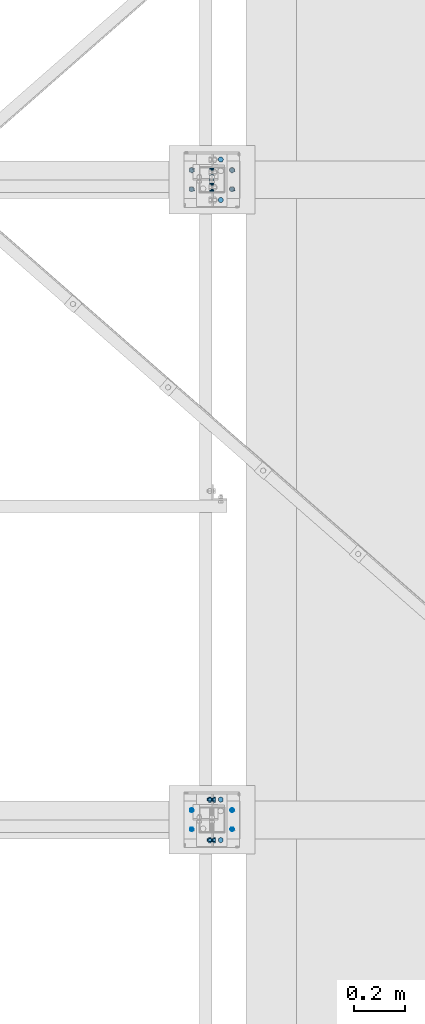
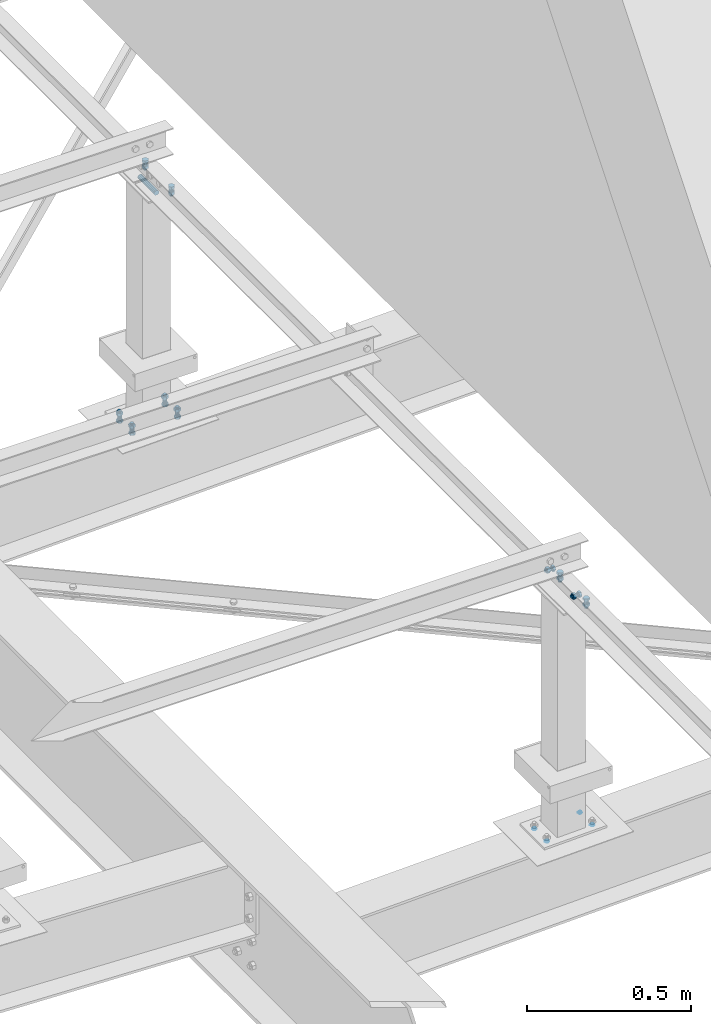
# One storey, part 82 of 3134: 6 mechanical fasteners, 6 elements without a shape of their own.
"""IFC2X3 building model written with IfcOpenShell, lengths in millimetres."""

from ifc_helpers import new_model, si_unit, frame, origin_with_axes, place, context, subcontext, project, spatial, faceted_brep, source, transform, mapped, material, type_object, element, aggregate, save


model = new_model("IFC2X3")

# Units and contexts
model_context = context("Model", 3, precision=1e-05, world=origin_with_axes())
body_context = subcontext(model_context, "Body", "Model", "MODEL_VIEW")
ifc_project = project(units=[si_unit("LENGTHUNIT", "METRE", prefix="MILLI"), si_unit("AREAUNIT", "SQUARE_METRE"), si_unit("VOLUMEUNIT", "CUBIC_METRE"), si_unit("MASSUNIT", "GRAM", prefix="KILO"), si_unit("TIMEUNIT", "SECOND"), si_unit("PLANEANGLEUNIT", "RADIAN"), si_unit("SOLIDANGLEUNIT", "STERADIAN"), si_unit("THERMODYNAMICTEMPERATUREUNIT", "DEGREE_CELSIUS"), si_unit("LUMINOUSINTENSITYUNIT", "LUMEN")], contexts=[model_context])

# Site, building, storey
site_placement = place(None, origin_with_axes())
site = spatial("IfcSite", under=ifc_project, at=site_placement, CompositionType="ELEMENT")
building_placement = place(site_placement, origin_with_axes())
building = spatial("IfcBuilding", under=site, at=building_placement, Name="Undefined", CompositionType="ELEMENT")
storey_placement = place(building_placement, origin_with_axes())
storey = spatial("IfcBuildingStorey", under=building, at=storey_placement, Name="Undefined", CompositionType="ELEMENT", Elevation=0.0)

# Assembly, mechanical fastener
assembly_1_placement = place(storey_placement, origin_with_axes())
assembly_1 = element("IfcElementAssembly", 1, at=assembly_1_placement, inside=storey, AssemblyPlace="NOTDEFINED", PredefinedType="RIGID_FRAME")
ifc_material = material(Name="8.8")
mechanical_fastener_type = type_object("IfcMechanicalFastenerType", Name="Bolt assembly")
shared_shape_1 = source(origin_with_axes(), body_context, "Body", "Brep", [
    faceted_brep([(10.9696551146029, -14.0, 0.0), (5.48482755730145, -14.0, 9.5), (-5.48482755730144, -14.0, 9.5), (-10.9696551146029, -14.0, 1.34339530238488e-15), (-5.48482755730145, -14.0, -9.5), (5.48482755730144, -14.0, -9.50000000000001), (5.48482755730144, -6.0, -9.50000000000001), (-5.48482755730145, -6.0, -9.5), (-10.9696551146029, -6.0, 1.34339530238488e-15), (-5.48482755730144, -6.0, 9.5), (5.48482755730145, -6.0, 9.5), (10.9696551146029, -6.0, 0.0), (6.0, -6.0, 0.0), (5.19615242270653, -6.0, 3.00000000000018), (2.99999999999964, -6.0, 5.19615242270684), (-6.21801588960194e-13, -6.0, 6.0), (-3.00000000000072, -6.0, 5.19615242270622), (-5.19615242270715, -6.0, 2.9999999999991), (-6.0, -6.0, -1.24360317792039e-12), (-5.19615242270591, -6.0, -3.00000000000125), (-2.99999999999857, -6.0, -5.19615242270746), (1.85874342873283e-12, -6.0, -6.0), (3.00000000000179, -6.0, -5.1961524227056), (5.19615242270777, -6.0, -2.99999999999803), (5.19615242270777, 24.0, -2.99999999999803), (3.00000000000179, 24.0, -5.1961524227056), (1.85874342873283e-12, 24.0, -6.0), (-2.99999999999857, 24.0, -5.19615242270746), (-5.19615242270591, 24.0, -3.00000000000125), (-6.0, 24.0, -1.24360317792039e-12), (-5.19615242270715, 24.0, 2.9999999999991), (-3.00000000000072, 24.0, 5.19615242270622), (-6.21801588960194e-13, 24.0, 6.0), (2.99999999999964, 24.0, 5.19615242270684), (5.19615242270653, 24.0, 3.00000000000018), (6.0, 24.0, 0.0), (10.9696551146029, 6.00000000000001, 0.0), (5.48482755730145, 6.00000000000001, 9.5), (-5.48482755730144, 6.00000000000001, 9.5), (-10.9696551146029, 6.00000000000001, 1.34339530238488e-15), (-5.48482755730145, 6.00000000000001, -9.5), (5.48482755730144, 6.00000000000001, -9.50000000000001), (5.48482755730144, 16.0, -9.50000000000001), (-5.48482755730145, 16.0, -9.5), (-10.9696551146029, 16.0, 1.34339530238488e-15), (-5.48482755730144, 16.0, 9.5), (5.48482755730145, 16.0, 9.5), (10.9696551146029, 16.0, 0.0)], [[[0, 1, 2, 3, 4, 5]], [[6, 7, 8, 9, 10, 11]], [[0, 11, 10, 1]], [[1, 10, 9, 2]], [[2, 9, 8, 3]], [[3, 8, 7, 4]], [[4, 7, 6, 5]], [[5, 6, 11, 0]], [[12, 13, 14, 15, 16, 17, 18, 19, 20, 21, 22, 23]], [[24, 25, 26, 27, 28, 29, 30, 31, 32, 33, 34, 35]], [[12, 35, 34, 13]], [[13, 34, 33, 14]], [[14, 33, 32, 15]], [[15, 32, 31, 16]], [[16, 31, 30, 17]], [[17, 30, 29, 18]], [[18, 29, 28, 19]], [[19, 28, 27, 20]], [[20, 27, 26, 21]], [[21, 26, 25, 22]], [[22, 25, 24, 23]], [[23, 24, 35, 12]], [[36, 37, 38, 39, 40, 41]], [[42, 43, 44, 45, 46, 47]], [[36, 47, 46, 37]], [[37, 46, 45, 38]], [[38, 45, 44, 39]], [[39, 44, 43, 40]], [[40, 43, 42, 41]], [[41, 42, 47, 36]]]),
    faceted_brep([(7.0, -5.9, 0.0), (6.06217782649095, -5.9, 3.50000000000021), (3.49999999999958, -5.9, 6.06217782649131), (-7.25435187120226e-13, -5.9, 7.0), (-3.50000000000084, -5.9, 6.06217782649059), (-6.06217782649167, -5.9, 3.49999999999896), (-7.0, -5.9, -1.45087037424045e-12), (-6.06217782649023, -5.9, -3.50000000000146), (-3.49999999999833, -5.9, -6.06217782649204), (2.1685340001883e-12, -5.9, -7.0), (3.50000000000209, -5.9, -6.06217782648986), (6.0621778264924, -5.9, -3.4999999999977), (6.0621778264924, 0.0999999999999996, -3.4999999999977), (3.50000000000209, 0.0999999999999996, -6.06217782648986), (2.1685340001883e-12, 0.0999999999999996, -7.0), (-3.49999999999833, 0.0999999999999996, -6.06217782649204), (-6.06217782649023, 0.0999999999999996, -3.50000000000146), (-7.0, 0.0999999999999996, -1.45087037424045e-12), (-6.06217782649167, 0.0999999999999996, 3.49999999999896), (-3.50000000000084, 0.0999999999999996, 6.06217782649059), (-7.25435187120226e-13, 0.0999999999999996, 7.0), (3.49999999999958, 0.0999999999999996, 6.06217782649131), (6.06217782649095, 0.0999999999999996, 3.50000000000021), (7.0, 0.0999999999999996, 0.0), (7.0, -0.1, 0.0), (6.06217782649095, -0.1, 3.50000000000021), (3.49999999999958, -0.1, 6.06217782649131), (-7.25435187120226e-13, -0.1, 7.0), (-3.50000000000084, -0.1, 6.06217782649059), (-6.06217782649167, -0.1, 3.49999999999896), (-7.0, -0.1, -1.45087037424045e-12), (-6.06217782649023, -0.1, -3.50000000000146), (-3.49999999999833, -0.1, -6.06217782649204), (2.1685340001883e-12, -0.1, -7.0), (3.50000000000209, -0.1, -6.06217782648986), (6.0621778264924, -0.1, -3.4999999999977), (6.0621778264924, 6.00000000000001, -3.4999999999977), (3.50000000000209, 6.00000000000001, -6.06217782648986), (2.1685340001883e-12, 6.00000000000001, -7.0), (-3.49999999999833, 6.00000000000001, -6.06217782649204), (-6.06217782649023, 6.00000000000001, -3.50000000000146), (-7.0, 6.00000000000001, -1.45087037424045e-12), (-6.06217782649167, 6.00000000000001, 3.49999999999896), (-3.50000000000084, 6.00000000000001, 6.06217782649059), (-7.25435187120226e-13, 6.00000000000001, 7.0), (3.49999999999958, 6.00000000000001, 6.06217782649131), (6.06217782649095, 6.00000000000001, 3.50000000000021), (7.0, 6.00000000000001, 0.0)], [[[0, 1, 2, 3, 4, 5, 6, 7, 8, 9, 10, 11]], [[12, 13, 14, 15, 16, 17, 18, 19, 20, 21, 22, 23]], [[0, 23, 22, 1]], [[1, 22, 21, 2]], [[2, 21, 20, 3]], [[3, 20, 19, 4]], [[4, 19, 18, 5]], [[5, 18, 17, 6]], [[6, 17, 16, 7]], [[7, 16, 15, 8]], [[8, 15, 14, 9]], [[9, 14, 13, 10]], [[10, 13, 12, 11]], [[11, 12, 23, 0]], [[24, 25, 26, 27, 28, 29, 30, 31, 32, 33, 34, 35]], [[36, 37, 38, 39, 40, 41, 42, 43, 44, 45, 46, 47]], [[24, 47, 46, 25]], [[25, 46, 45, 26]], [[26, 45, 44, 27]], [[27, 44, 43, 28]], [[28, 43, 42, 29]], [[29, 42, 41, 30]], [[30, 41, 40, 31]], [[31, 40, 39, 32]], [[32, 39, 38, 33]], [[33, 38, 37, 34]], [[34, 37, 36, 35]], [[35, 36, 47, 24]]]),
])
mechanical_fastener_1_placement = place(assembly_1_placement, frame((10440.0, 21901.25, 4265.0), z_axis=(-1.0, 0.0, 0.0), x_axis=(0.0, 1.0, 0.0)))
mechanical_fastener_1 = element("IfcMechanicalFastener", 2, at=mechanical_fastener_1_placement, type_object=mechanical_fastener_type, material=ifc_material, Name="Bolt assembly", NominalDiameter=12.0, NominalLength=30.0, context=body_context, shape_type="MappedRepresentation", body=[
    mapped(shared_shape_1, transform((0.0, 0.0, 0.0))),
    mapped(shared_shape_1, transform((160.0, 0.0, 0.0))),
])
aggregate(assembly_1, [mechanical_fastener_1])

assembly_2_placement = place(storey_placement, origin_with_axes())
assembly_2 = element("IfcElementAssembly", 3, at=assembly_2_placement, inside=storey, AssemblyPlace="NOTDEFINED", PredefinedType="RIGID_FRAME")
shared_shape_2 = source(origin_with_axes(), body_context, "Body", "Brep", [
    faceted_brep([(10.9696551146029, -14.0, 0.0), (5.48482755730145, -14.0, 9.5), (-5.48482755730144, -14.0, 9.5), (-10.9696551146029, -14.0, 1.34339530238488e-15), (-5.48482755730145, -14.0, -9.5), (5.48482755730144, -14.0, -9.50000000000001), (5.48482755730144, -6.0, -9.50000000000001), (-5.48482755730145, -6.0, -9.5), (-10.9696551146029, -6.0, 1.34339530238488e-15), (-5.48482755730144, -6.0, 9.5), (5.48482755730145, -6.0, 9.5), (10.9696551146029, -6.0, 0.0), (6.0, -6.0, 0.0), (5.19615242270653, -6.0, 3.00000000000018), (2.99999999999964, -6.0, 5.19615242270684), (-6.21801588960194e-13, -6.0, 6.0), (-3.00000000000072, -6.0, 5.19615242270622), (-5.19615242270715, -6.0, 2.9999999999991), (-6.0, -6.0, -1.24360317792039e-12), (-5.19615242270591, -6.0, -3.00000000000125), (-2.99999999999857, -6.0, -5.19615242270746), (1.85874342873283e-12, -6.0, -6.0), (3.00000000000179, -6.0, -5.1961524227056), (5.19615242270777, -6.0, -2.99999999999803), (5.19615242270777, 19.0, -2.99999999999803), (3.00000000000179, 19.0, -5.1961524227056), (1.85874342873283e-12, 19.0, -6.0), (-2.99999999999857, 19.0, -5.19615242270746), (-5.19615242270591, 19.0, -3.00000000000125), (-6.0, 19.0, -1.24360317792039e-12), (-5.19615242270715, 19.0, 2.9999999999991), (-3.00000000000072, 19.0, 5.19615242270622), (-6.21801588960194e-13, 19.0, 6.0), (2.99999999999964, 19.0, 5.19615242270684), (5.19615242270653, 19.0, 3.00000000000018), (6.0, 19.0, 0.0), (10.9696551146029, 4.00000000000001, 0.0), (5.48482755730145, 4.00000000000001, 9.5), (-5.48482755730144, 4.00000000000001, 9.5), (-10.9696551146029, 4.00000000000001, 1.34339530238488e-15), (-5.48482755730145, 4.00000000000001, -9.5), (5.48482755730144, 4.00000000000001, -9.50000000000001), (5.48482755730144, 14.0, -9.50000000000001), (-5.48482755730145, 14.0, -9.5), (-10.9696551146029, 14.0, 1.34339530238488e-15), (-5.48482755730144, 14.0, 9.5), (5.48482755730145, 14.0, 9.5), (10.9696551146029, 14.0, 0.0)], [[[0, 1, 2, 3, 4, 5]], [[6, 7, 8, 9, 10, 11]], [[0, 11, 10, 1]], [[1, 10, 9, 2]], [[2, 9, 8, 3]], [[3, 8, 7, 4]], [[4, 7, 6, 5]], [[5, 6, 11, 0]], [[12, 13, 14, 15, 16, 17, 18, 19, 20, 21, 22, 23]], [[24, 25, 26, 27, 28, 29, 30, 31, 32, 33, 34, 35]], [[12, 35, 34, 13]], [[13, 34, 33, 14]], [[14, 33, 32, 15]], [[15, 32, 31, 16]], [[16, 31, 30, 17]], [[17, 30, 29, 18]], [[18, 29, 28, 19]], [[19, 28, 27, 20]], [[20, 27, 26, 21]], [[21, 26, 25, 22]], [[22, 25, 24, 23]], [[23, 24, 35, 12]], [[36, 37, 38, 39, 40, 41]], [[42, 43, 44, 45, 46, 47]], [[36, 47, 46, 37]], [[37, 46, 45, 38]], [[38, 45, 44, 39]], [[39, 44, 43, 40]], [[40, 43, 42, 41]], [[41, 42, 47, 36]]]),
    faceted_brep([(7.0, -0.1, 0.0), (6.06217782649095, -0.1, 3.50000000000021), (3.49999999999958, -0.1, 6.06217782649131), (-7.25435187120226e-13, -0.1, 7.0), (-3.50000000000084, -0.1, 6.06217782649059), (-6.06217782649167, -0.1, 3.49999999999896), (-7.0, -0.1, -1.45087037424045e-12), (-6.06217782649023, -0.1, -3.50000000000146), (-3.49999999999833, -0.1, -6.06217782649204), (2.1685340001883e-12, -0.1, -7.0), (3.50000000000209, -0.1, -6.06217782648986), (6.0621778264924, -0.1, -3.4999999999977), (6.0621778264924, 4.00000000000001, -3.4999999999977), (3.50000000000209, 4.00000000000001, -6.06217782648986), (2.1685340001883e-12, 4.00000000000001, -7.0), (-3.49999999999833, 4.00000000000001, -6.06217782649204), (-6.06217782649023, 4.00000000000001, -3.50000000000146), (-7.0, 4.00000000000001, -1.45087037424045e-12), (-6.06217782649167, 4.00000000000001, 3.49999999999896), (-3.50000000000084, 4.00000000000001, 6.06217782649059), (-7.25435187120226e-13, 4.00000000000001, 7.0), (3.49999999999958, 4.00000000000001, 6.06217782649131), (6.06217782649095, 4.00000000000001, 3.50000000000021), (7.0, 4.00000000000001, 0.0), (7.0, -5.9, 0.0), (6.06217782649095, -5.9, 3.50000000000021), (3.49999999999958, -5.9, 6.06217782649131), (-7.25435187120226e-13, -5.9, 7.0), (-3.50000000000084, -5.9, 6.06217782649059), (-6.06217782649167, -5.9, 3.49999999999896), (-7.0, -5.9, -1.45087037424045e-12), (-6.06217782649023, -5.9, -3.50000000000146), (-3.49999999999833, -5.9, -6.06217782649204), (2.1685340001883e-12, -5.9, -7.0), (3.50000000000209, -5.9, -6.06217782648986), (6.0621778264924, -5.9, -3.4999999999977), (6.0621778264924, 0.0999999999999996, -3.4999999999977), (3.50000000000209, 0.0999999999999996, -6.06217782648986), (2.1685340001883e-12, 0.0999999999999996, -7.0), (-3.49999999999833, 0.0999999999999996, -6.06217782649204), (-6.06217782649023, 0.0999999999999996, -3.50000000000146), (-7.0, 0.0999999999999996, -1.45087037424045e-12), (-6.06217782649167, 0.0999999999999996, 3.49999999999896), (-3.50000000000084, 0.0999999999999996, 6.06217782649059), (-7.25435187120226e-13, 0.0999999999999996, 7.0), (3.49999999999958, 0.0999999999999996, 6.06217782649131), (6.06217782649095, 0.0999999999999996, 3.50000000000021), (7.0, 0.0999999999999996, 0.0)], [[[0, 1, 2, 3, 4, 5, 6, 7, 8, 9, 10, 11]], [[12, 13, 14, 15, 16, 17, 18, 19, 20, 21, 22, 23]], [[0, 23, 22, 1]], [[1, 22, 21, 2]], [[2, 21, 20, 3]], [[3, 20, 19, 4]], [[4, 19, 18, 5]], [[5, 18, 17, 6]], [[6, 17, 16, 7]], [[7, 16, 15, 8]], [[8, 15, 14, 9]], [[9, 14, 13, 10]], [[10, 13, 12, 11]], [[11, 12, 23, 0]], [[24, 25, 26, 27, 28, 29, 30, 31, 32, 33, 34, 35]], [[36, 37, 38, 39, 40, 41, 42, 43, 44, 45, 46, 47]], [[24, 47, 46, 25]], [[25, 46, 45, 26]], [[26, 45, 44, 27]], [[27, 44, 43, 28]], [[28, 43, 42, 29]], [[29, 42, 41, 30]], [[30, 41, 40, 31]], [[31, 40, 39, 32]], [[32, 39, 38, 33]], [[33, 38, 37, 34]], [[34, 37, 36, 35]], [[35, 36, 47, 24]]]),
])
mechanical_fastener_2_placement = place(assembly_2_placement, frame((10405.0, 21901.25, 4300.0), z_axis=(0.0, 0.0, 1.0), x_axis=(0.0, 1.0, 0.0)))
mechanical_fastener_2 = element("IfcMechanicalFastener", 4, at=mechanical_fastener_2_placement, type_object=mechanical_fastener_type, material=ifc_material, Name="Bolt assembly", NominalDiameter=12.0, NominalLength=25.0, context=body_context, shape_type="MappedRepresentation", body=[
    mapped(shared_shape_2, transform((0.0, 0.0, 0.0))),
    mapped(shared_shape_2, transform((160.0, 0.0, 0.0))),
])
aggregate(assembly_2, [mechanical_fastener_2])

assembly_3_placement = place(storey_placement, origin_with_axes())
assembly_3 = element("IfcElementAssembly", 5, at=assembly_3_placement, inside=storey, AssemblyPlace="NOTDEFINED", PredefinedType="RIGID_FRAME")
shared_shape_3 = source(origin_with_axes(), body_context, "Body", "Brep", [
    faceted_brep([(10.9696551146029, -14.0, 0.0), (5.48482755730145, -14.0, 9.5), (-5.48482755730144, -14.0, 9.5), (-10.9696551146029, -14.0, 1.34339530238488e-15), (-5.48482755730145, -14.0, -9.5), (5.48482755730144, -14.0, -9.50000000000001), (5.48482755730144, -6.0, -9.50000000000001), (-5.48482755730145, -6.0, -9.5), (-10.9696551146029, -6.0, 1.34339530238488e-15), (-5.48482755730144, -6.0, 9.5), (5.48482755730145, -6.0, 9.5), (10.9696551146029, -6.0, 0.0), (6.0, -6.0, 0.0), (5.19615242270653, -6.0, 3.00000000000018), (2.99999999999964, -6.0, 5.19615242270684), (-6.21801588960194e-13, -6.0, 6.0), (-3.00000000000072, -6.0, 5.19615242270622), (-5.19615242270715, -6.0, 2.9999999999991), (-6.0, -6.0, -1.24360317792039e-12), (-5.19615242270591, -6.0, -3.00000000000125), (-2.99999999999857, -6.0, -5.19615242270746), (1.85874342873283e-12, -6.0, -6.0), (3.00000000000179, -6.0, -5.1961524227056), (5.19615242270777, -6.0, -2.99999999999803), (5.19615242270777, 24.0, -2.99999999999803), (3.00000000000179, 24.0, -5.1961524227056), (1.85874342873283e-12, 24.0, -6.0), (-2.99999999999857, 24.0, -5.19615242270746), (-5.19615242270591, 24.0, -3.00000000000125), (-6.0, 24.0, -1.24360317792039e-12), (-5.19615242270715, 24.0, 2.9999999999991), (-3.00000000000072, 24.0, 5.19615242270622), (-6.21801588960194e-13, 24.0, 6.0), (2.99999999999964, 24.0, 5.19615242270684), (5.19615242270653, 24.0, 3.00000000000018), (6.0, 24.0, 0.0), (10.9696551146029, 6.00000000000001, 0.0), (5.48482755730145, 6.00000000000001, 9.5), (-5.48482755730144, 6.00000000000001, 9.5), (-10.9696551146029, 6.00000000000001, 1.34339530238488e-15), (-5.48482755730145, 6.00000000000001, -9.5), (5.48482755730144, 6.00000000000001, -9.50000000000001), (5.48482755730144, 16.0, -9.50000000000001), (-5.48482755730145, 16.0, -9.5), (-10.9696551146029, 16.0, 1.34339530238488e-15), (-5.48482755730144, 16.0, 9.5), (5.48482755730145, 16.0, 9.5), (10.9696551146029, 16.0, 0.0)], [[[0, 1, 2, 3, 4, 5]], [[6, 7, 8, 9, 10, 11]], [[0, 11, 10, 1]], [[1, 10, 9, 2]], [[2, 9, 8, 3]], [[3, 8, 7, 4]], [[4, 7, 6, 5]], [[5, 6, 11, 0]], [[12, 13, 14, 15, 16, 17, 18, 19, 20, 21, 22, 23]], [[24, 25, 26, 27, 28, 29, 30, 31, 32, 33, 34, 35]], [[12, 35, 34, 13]], [[13, 34, 33, 14]], [[14, 33, 32, 15]], [[15, 32, 31, 16]], [[16, 31, 30, 17]], [[17, 30, 29, 18]], [[18, 29, 28, 19]], [[19, 28, 27, 20]], [[20, 27, 26, 21]], [[21, 26, 25, 22]], [[22, 25, 24, 23]], [[23, 24, 35, 12]], [[36, 37, 38, 39, 40, 41]], [[42, 43, 44, 45, 46, 47]], [[36, 47, 46, 37]], [[37, 46, 45, 38]], [[38, 45, 44, 39]], [[39, 44, 43, 40]], [[40, 43, 42, 41]], [[41, 42, 47, 36]]]),
    faceted_brep([(7.0, -0.1, 0.0), (6.06217782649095, -0.1, 3.50000000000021), (3.49999999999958, -0.1, 6.06217782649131), (-7.25435187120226e-13, -0.1, 7.0), (-3.50000000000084, -0.1, 6.06217782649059), (-6.06217782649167, -0.1, 3.49999999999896), (-7.0, -0.1, -1.45087037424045e-12), (-6.06217782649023, -0.1, -3.50000000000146), (-3.49999999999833, -0.1, -6.06217782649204), (2.1685340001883e-12, -0.1, -7.0), (3.50000000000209, -0.1, -6.06217782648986), (6.0621778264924, -0.1, -3.4999999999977), (6.0621778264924, 6.00000000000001, -3.4999999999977), (3.50000000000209, 6.00000000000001, -6.06217782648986), (2.1685340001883e-12, 6.00000000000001, -7.0), (-3.49999999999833, 6.00000000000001, -6.06217782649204), (-6.06217782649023, 6.00000000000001, -3.50000000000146), (-7.0, 6.00000000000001, -1.45087037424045e-12), (-6.06217782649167, 6.00000000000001, 3.49999999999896), (-3.50000000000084, 6.00000000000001, 6.06217782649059), (-7.25435187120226e-13, 6.00000000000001, 7.0), (3.49999999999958, 6.00000000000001, 6.06217782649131), (6.06217782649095, 6.00000000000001, 3.50000000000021), (7.0, 6.00000000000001, 0.0), (7.0, -5.9, 0.0), (6.06217782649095, -5.9, 3.50000000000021), (3.49999999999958, -5.9, 6.06217782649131), (-7.25435187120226e-13, -5.9, 7.0), (-3.50000000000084, -5.9, 6.06217782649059), (-6.06217782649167, -5.9, 3.49999999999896), (-7.0, -5.9, -1.45087037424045e-12), (-6.06217782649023, -5.9, -3.50000000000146), (-3.49999999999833, -5.9, -6.06217782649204), (2.1685340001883e-12, -5.9, -7.0), (3.50000000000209, -5.9, -6.06217782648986), (6.0621778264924, -5.9, -3.4999999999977), (6.0621778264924, 0.0999999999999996, -3.4999999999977), (3.50000000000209, 0.0999999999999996, -6.06217782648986), (2.1685340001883e-12, 0.0999999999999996, -7.0), (-3.49999999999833, 0.0999999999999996, -6.06217782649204), (-6.06217782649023, 0.0999999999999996, -3.50000000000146), (-7.0, 0.0999999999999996, -1.45087037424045e-12), (-6.06217782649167, 0.0999999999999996, 3.49999999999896), (-3.50000000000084, 0.0999999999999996, 6.06217782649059), (-7.25435187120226e-13, 0.0999999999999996, 7.0), (3.49999999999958, 0.0999999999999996, 6.06217782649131), (6.06217782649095, 0.0999999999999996, 3.50000000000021), (7.0, 0.0999999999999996, 0.0)], [[[0, 1, 2, 3, 4, 5, 6, 7, 8, 9, 10, 11]], [[12, 13, 14, 15, 16, 17, 18, 19, 20, 21, 22, 23]], [[0, 23, 22, 1]], [[1, 22, 21, 2]], [[2, 21, 20, 3]], [[3, 20, 19, 4]], [[4, 19, 18, 5]], [[5, 18, 17, 6]], [[6, 17, 16, 7]], [[7, 16, 15, 8]], [[8, 15, 14, 9]], [[9, 14, 13, 10]], [[10, 13, 12, 11]], [[11, 12, 23, 0]], [[24, 25, 26, 27, 28, 29, 30, 31, 32, 33, 34, 35]], [[36, 37, 38, 39, 40, 41, 42, 43, 44, 45, 46, 47]], [[24, 47, 46, 25]], [[25, 46, 45, 26]], [[26, 45, 44, 27]], [[27, 44, 43, 28]], [[28, 43, 42, 29]], [[29, 42, 41, 30]], [[30, 41, 40, 31]], [[31, 40, 39, 32]], [[32, 39, 38, 33]], [[33, 38, 37, 34]], [[34, 37, 36, 35]], [[35, 36, 47, 24]]]),
])
mechanical_fastener_3_placement = place(assembly_3_placement, frame((10440.0, 24512.5, 4265.0), z_axis=(0.0, -1.0, 0.0), x_axis=(-1.0, 0.0, 0.0)))
mechanical_fastener_3 = element("IfcMechanicalFastener", 6, at=mechanical_fastener_3_placement, type_object=mechanical_fastener_type, material=ifc_material, Name="Bolt assembly", NominalDiameter=12.0, NominalLength=30.0, context=body_context, shape_type="MappedRepresentation", body=[
    mapped(shared_shape_3, transform((0.0, -5.32963895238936e-10, -79.9999999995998))),
    mapped(shared_shape_3, transform((0.0, 5.3114490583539e-10, 79.9999999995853))),
])
aggregate(assembly_3, [mechanical_fastener_3])

assembly_4_placement = place(storey_placement, origin_with_axes())
assembly_4 = element("IfcElementAssembly", 7, at=assembly_4_placement, inside=storey, Name="300", AssemblyPlace="NOTDEFINED", PredefinedType="RIGID_FRAME")
shared_shape_4 = source(origin_with_axes(), body_context, "Body", "Brep", [
    faceted_brep([(10.9696551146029, -4.1984682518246, 0.0), (5.48482755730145, -4.1984682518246, 9.5), (-5.48482755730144, -4.1984682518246, 9.5), (-10.9696551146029, -4.1984682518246, 1.34339530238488e-15), (-5.48482755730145, -4.1984682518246, -9.5), (5.48482755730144, -4.1984682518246, -9.50000000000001), (5.48482755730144, 3.8015317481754, -9.50000000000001), (-5.48482755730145, 3.8015317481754, -9.5), (-10.9696551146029, 3.8015317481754, 1.34339530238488e-15), (-5.48482755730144, 3.8015317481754, 9.5), (5.48482755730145, 3.8015317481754, 9.5), (10.9696551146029, 3.8015317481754, 0.0), (6.0, 3.8015317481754, 0.0), (5.19615242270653, 3.8015317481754, 3.00000000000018), (2.99999999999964, 3.8015317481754, 5.19615242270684), (-6.21801588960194e-13, 3.8015317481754, 6.0), (-3.00000000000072, 3.8015317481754, 5.19615242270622), (-5.19615242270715, 3.8015317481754, 2.9999999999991), (-6.0, 3.8015317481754, -1.24360317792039e-12), (-5.19615242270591, 3.8015317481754, -3.00000000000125), (-2.99999999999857, 3.8015317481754, -5.19615242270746), (1.85874342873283e-12, 3.8015317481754, -6.0), (3.00000000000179, 3.8015317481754, -5.1961524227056), (5.19615242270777, 3.8015317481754, -2.99999999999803), (5.19615242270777, 38.8015317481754, -2.99999999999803), (3.00000000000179, 38.8015317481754, -5.1961524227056), (1.85874342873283e-12, 38.8015317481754, -6.0), (-2.99999999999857, 38.8015317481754, -5.19615242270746), (-5.19615242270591, 38.8015317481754, -3.00000000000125), (-6.0, 38.8015317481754, -1.24360317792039e-12), (-5.19615242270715, 38.8015317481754, 2.9999999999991), (-3.00000000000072, 38.8015317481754, 5.19615242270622), (-6.21801588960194e-13, 38.8015317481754, 6.0), (2.99999999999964, 38.8015317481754, 5.19615242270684), (5.19615242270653, 38.8015317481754, 3.00000000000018), (6.0, 38.8015317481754, 0.0), (10.9696551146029, 23.0039050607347, 0.0), (5.48482755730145, 23.0039050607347, 9.5), (-5.48482755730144, 23.0039050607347, 9.5), (-10.9696551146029, 23.0039050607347, 1.34339530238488e-15), (-5.48482755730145, 23.0039050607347, -9.5), (5.48482755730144, 23.0039050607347, -9.50000000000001), (5.48482755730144, 33.0039050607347, -9.50000000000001), (-5.48482755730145, 33.0039050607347, -9.5), (-10.9696551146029, 33.0039050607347, 1.34339530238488e-15), (-5.48482755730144, 33.0039050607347, 9.5), (5.48482755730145, 33.0039050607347, 9.5), (10.9696551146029, 33.0039050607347, 0.0)], [[[0, 1, 2, 3, 4, 5]], [[6, 7, 8, 9, 10, 11]], [[0, 11, 10, 1]], [[1, 10, 9, 2]], [[2, 9, 8, 3]], [[3, 8, 7, 4]], [[4, 7, 6, 5]], [[5, 6, 11, 0]], [[12, 13, 14, 15, 16, 17, 18, 19, 20, 21, 22, 23]], [[24, 25, 26, 27, 28, 29, 30, 31, 32, 33, 34, 35]], [[12, 35, 34, 13]], [[13, 34, 33, 14]], [[14, 33, 32, 15]], [[15, 32, 31, 16]], [[16, 31, 30, 17]], [[17, 30, 29, 18]], [[18, 29, 28, 19]], [[19, 28, 27, 20]], [[20, 27, 26, 21]], [[21, 26, 25, 22]], [[22, 25, 24, 23]], [[23, 24, 35, 12]], [[36, 37, 38, 39, 40, 41]], [[42, 43, 44, 45, 46, 47]], [[36, 47, 46, 37]], [[37, 46, 45, 38]], [[38, 45, 44, 39]], [[39, 44, 43, 40]], [[40, 43, 42, 41]], [[41, 42, 47, 36]]]),
    faceted_brep([(7.0, 14.9039050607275, 0.0), (6.06217782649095, 14.9039050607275, 3.50000000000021), (3.49999999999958, 14.9039050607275, 6.06217782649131), (-7.25435187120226e-13, 14.9039050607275, 7.0), (-3.50000000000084, 14.9039050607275, 6.06217782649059), (-6.06217782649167, 14.9039050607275, 3.49999999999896), (-7.0, 14.9039050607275, -1.45087037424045e-12), (-6.06217782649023, 14.9039050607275, -3.50000000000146), (-3.49999999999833, 14.9039050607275, -6.06217782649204), (2.1685340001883e-12, 14.9039050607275, -7.0), (3.50000000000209, 14.9039050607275, -6.06217782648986), (6.0621778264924, 14.9039050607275, -3.4999999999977), (6.0621778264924, 23.0039050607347, -3.4999999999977), (3.50000000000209, 23.0039050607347, -6.06217782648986), (2.1685340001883e-12, 23.0039050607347, -7.0), (-3.49999999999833, 23.0039050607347, -6.06217782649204), (-6.06217782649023, 23.0039050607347, -3.50000000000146), (-7.0, 23.0039050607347, -1.45087037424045e-12), (-6.06217782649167, 23.0039050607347, 3.49999999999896), (-3.50000000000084, 23.0039050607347, 6.06217782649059), (-7.25435187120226e-13, 23.0039050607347, 7.0), (3.49999999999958, 23.0039050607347, 6.06217782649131), (6.06217782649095, 23.0039050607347, 3.50000000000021), (7.0, 23.0039050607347, 0.0), (7.0, 3.9015317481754, 0.0), (6.06217782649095, 3.9015317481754, 3.50000000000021), (3.49999999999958, 3.9015317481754, 6.06217782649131), (-7.25435187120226e-13, 3.9015317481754, 7.0), (-3.50000000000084, 3.9015317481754, 6.06217782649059), (-6.06217782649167, 3.9015317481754, 3.49999999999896), (-7.0, 3.9015317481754, -1.45087037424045e-12), (-6.06217782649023, 3.9015317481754, -3.50000000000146), (-3.49999999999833, 3.9015317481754, -6.06217782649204), (2.1685340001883e-12, 3.9015317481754, -7.0), (3.50000000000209, 3.9015317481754, -6.06217782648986), (6.0621778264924, 3.9015317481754, -3.4999999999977), (6.0621778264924, 13.1015315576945, -3.4999999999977), (3.50000000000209, 13.1015315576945, -6.06217782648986), (2.1685340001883e-12, 13.1015315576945, -7.0), (-3.49999999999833, 13.1015315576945, -6.06217782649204), (-6.06217782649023, 13.1015315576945, -3.50000000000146), (-7.0, 13.1015315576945, -1.45087037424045e-12), (-6.06217782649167, 13.1015315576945, 3.49999999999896), (-3.50000000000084, 13.1015315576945, 6.06217782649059), (-7.25435187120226e-13, 13.1015315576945, 7.0), (3.49999999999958, 13.1015315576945, 6.06217782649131), (6.06217782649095, 13.1015315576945, 3.50000000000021), (7.0, 13.1015315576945, 0.0)], [[[0, 1, 2, 3, 4, 5, 6, 7, 8, 9, 10, 11]], [[12, 13, 14, 15, 16, 17, 18, 19, 20, 21, 22, 23]], [[0, 23, 22, 1]], [[1, 22, 21, 2]], [[2, 21, 20, 3]], [[3, 20, 19, 4]], [[4, 19, 18, 5]], [[5, 18, 17, 6]], [[6, 17, 16, 7]], [[7, 16, 15, 8]], [[8, 15, 14, 9]], [[9, 14, 13, 10]], [[10, 13, 12, 11]], [[11, 12, 23, 0]], [[24, 25, 26, 27, 28, 29, 30, 31, 32, 33, 34, 35]], [[36, 37, 38, 39, 40, 41, 42, 43, 44, 45, 46, 47]], [[24, 47, 46, 25]], [[25, 46, 45, 26]], [[26, 45, 44, 27]], [[27, 44, 43, 28]], [[28, 43, 42, 29]], [[29, 42, 41, 30]], [[30, 41, 40, 31]], [[31, 40, 39, 32]], [[32, 39, 38, 33]], [[33, 38, 37, 34]], [[34, 37, 36, 35]], [[35, 36, 47, 24]]]),
])
mechanical_fastener_4_placement = place(assembly_4_placement, frame((10405.7748812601, 24474.5, 3374.2272055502), z_axis=(0.999519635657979, 0.0, 0.0309919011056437), x_axis=(0.0, 1.0, 0.0)))
mechanical_fastener_4 = element("IfcMechanicalFastener", 8, at=mechanical_fastener_4_placement, type_object=mechanical_fastener_type, material=ifc_material, Name="Bolt assembly", NominalDiameter=12.0, NominalLength=35.0, context=body_context, shape_type="MappedRepresentation", body=[
    mapped(shared_shape_4, transform((0.0, -5.32963895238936e-10, -79.9999999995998))),
    mapped(shared_shape_4, transform((76.0, -5.32963895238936e-10, -79.9999999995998))),
    mapped(shared_shape_4, transform((0.0, 5.3114490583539e-10, 79.9999999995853))),
    mapped(shared_shape_4, transform((76.0, 5.3114490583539e-10, 79.9999999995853))),
])
aggregate(assembly_4, [mechanical_fastener_4])

assembly_5_placement = place(storey_placement, origin_with_axes())
assembly_5 = element("IfcElementAssembly", 9, at=assembly_5_placement, inside=storey, AssemblyPlace="NOTDEFINED", PredefinedType="RIGID_FRAME")
shared_shape_5 = source(origin_with_axes(), body_context, "Body", "Brep", [
    faceted_brep([(7.0, 13.0000253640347, 0.0), (6.06217782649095, 13.0000253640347, 3.50000000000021), (3.49999999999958, 13.0000253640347, 6.06217782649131), (-7.25435187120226e-13, 13.0000253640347, 7.0), (-3.50000000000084, 13.0000253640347, 6.06217782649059), (-6.06217782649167, 13.0000253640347, 3.49999999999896), (-7.0, 13.0000253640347, -1.45087037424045e-12), (-6.06217782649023, 13.0000253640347, -3.50000000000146), (-3.49999999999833, 13.0000253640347, -6.06217782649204), (2.1685340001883e-12, 13.0000253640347, -7.0), (3.50000000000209, 13.0000253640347, -6.06217782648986), (6.0621778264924, 13.0000253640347, -3.4999999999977), (6.0621778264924, 15.0999999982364, -3.4999999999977), (3.50000000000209, 15.0999999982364, -6.06217782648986), (2.1685340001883e-12, 15.0999999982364, -7.0), (-3.49999999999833, 15.0999999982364, -6.06217782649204), (-6.06217782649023, 15.0999999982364, -3.50000000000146), (-7.0, 15.0999999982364, -1.45087037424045e-12), (-6.06217782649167, 15.0999999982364, 3.49999999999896), (-3.50000000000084, 15.0999999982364, 6.06217782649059), (-7.25435187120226e-13, 15.0999999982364, 7.0), (3.49999999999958, 15.0999999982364, 6.06217782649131), (6.06217782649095, 15.0999999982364, 3.50000000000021), (7.0, 15.0999999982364, 0.0)], [[[0, 1, 2, 3, 4, 5, 6, 7, 8, 9, 10, 11]], [[12, 13, 14, 15, 16, 17, 18, 19, 20, 21, 22, 23]], [[0, 23, 22, 1]], [[1, 22, 21, 2]], [[2, 21, 20, 3]], [[3, 20, 19, 4]], [[4, 19, 18, 5]], [[5, 18, 17, 6]], [[6, 17, 16, 7]], [[7, 16, 15, 8]], [[8, 15, 14, 9]], [[9, 14, 13, 10]], [[10, 13, 12, 11]], [[11, 12, 23, 0]]]),
])
mechanical_fastener_5_placement = place(assembly_5_placement, frame((10405.7748812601, 21943.25, 3374.2272055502), z_axis=(0.999519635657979, 0.0, 0.0309919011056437), x_axis=(0.0, 1.0, 0.0)))
mechanical_fastener_5 = element("IfcMechanicalFastener", 10, at=mechanical_fastener_5_placement, type_object=mechanical_fastener_type, material=ifc_material, Name="Bolt assembly", NominalDiameter=12.0, NominalLength=2.0, context=body_context, shape_type="MappedRepresentation", body=[
    mapped(shared_shape_5, transform((0.0, -5.32963895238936e-10, -79.9999999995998))),
    mapped(shared_shape_5, transform((76.0, -5.32963895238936e-10, -79.9999999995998))),
    mapped(shared_shape_5, transform((0.0, 5.3114490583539e-10, 79.9999999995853))),
    mapped(shared_shape_5, transform((76.0, 5.3114490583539e-10, 79.9999999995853))),
])
aggregate(assembly_5, [mechanical_fastener_5])

assembly_6_placement = place(storey_placement, origin_with_axes())
assembly_6 = element("IfcElementAssembly", 11, at=assembly_6_placement, inside=storey, AssemblyPlace="NOTDEFINED", PredefinedType="RIGID_FRAME")
shared_shape_6 = source(origin_with_axes(), body_context, "Body", "Brep", [
    faceted_brep([(9.0, -50.0, 0.0), (7.79422863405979, -50.0, 4.50000000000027), (4.49999999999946, -50.0, 7.79422863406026), (-9.3270238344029e-13, -50.0, 9.0), (-4.50000000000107, -50.0, 7.79422863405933), (-7.79422863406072, -50.0, 4.49999999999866), (-9.0, -50.0, -1.86540476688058e-12), (-7.79422863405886, -50.0, -4.50000000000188), (-4.49999999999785, -50.0, -7.79422863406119), (2.78811514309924e-12, -50.0, -9.0), (4.50000000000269, -50.0, -7.7942286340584), (7.79422863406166, -50.0, -4.49999999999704), (7.79422863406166, 50.1, -4.49999999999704), (4.50000000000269, 50.1, -7.7942286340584), (2.78811514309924e-12, 50.1, -9.0), (-4.49999999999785, 50.1, -7.79422863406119), (-7.79422863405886, 50.1, -4.50000000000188), (-9.0, 50.1, -1.86540476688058e-12), (-7.79422863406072, 50.1, 4.49999999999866), (-4.50000000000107, 50.1, 7.79422863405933), (-9.3270238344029e-13, 50.1, 9.0), (4.49999999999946, 50.1, 7.79422863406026), (7.79422863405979, 50.1, 4.50000000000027), (9.0, 50.1, 0.0)], [[[0, 1, 2, 3, 4, 5, 6, 7, 8, 9, 10, 11]], [[12, 13, 14, 15, 16, 17, 18, 19, 20, 21, 22, 23]], [[0, 23, 22, 1]], [[1, 22, 21, 2]], [[2, 21, 20, 3]], [[3, 20, 19, 4]], [[4, 19, 18, 5]], [[5, 18, 17, 6]], [[6, 17, 16, 7]], [[7, 16, 15, 8]], [[8, 15, 14, 9]], [[9, 14, 13, 10]], [[10, 13, 12, 11]], [[11, 12, 23, 0]]]),
])
mechanical_fastener_6_placement = place(assembly_6_placement, frame((10405.0, 24512.5, 4245.0), z_axis=(-1.0, 0.0, 0.0), x_axis=(0.0, 0.0, 1.0)))
mechanical_fastener_6 = element("IfcMechanicalFastener", 12, at=mechanical_fastener_6_placement, type_object=mechanical_fastener_type, material=ifc_material, Name="Bolt assembly", NominalDiameter=16.0, NominalLength=100.0, context=body_context, shape_type="MappedRepresentation", body=[
    mapped(shared_shape_6, transform((0.0, 0.0, 0.0))),
])
aggregate(assembly_6, [mechanical_fastener_6])

save(model, "model.ifc")
